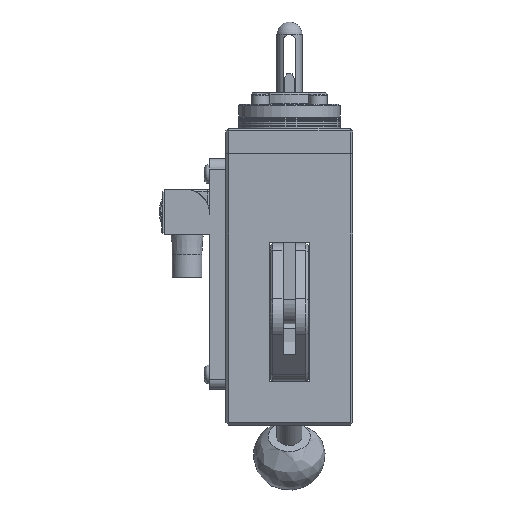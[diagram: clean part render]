
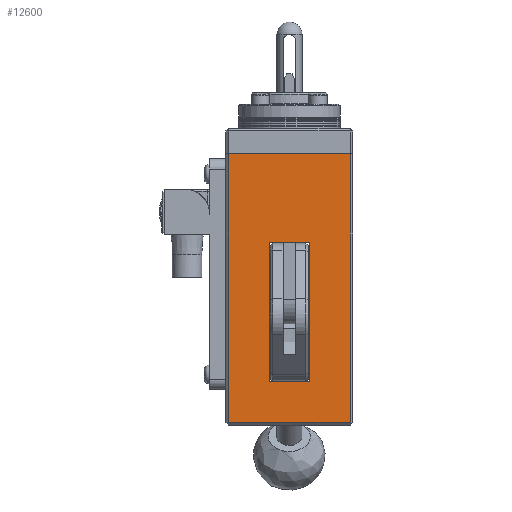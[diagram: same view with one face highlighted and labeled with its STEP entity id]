
A CAD part, left-side view. The second image highlights one B-rep face of the part: STEP entity #12600.
In plain terms, the highlighted planar face has unit normal (-1, 0, 0).
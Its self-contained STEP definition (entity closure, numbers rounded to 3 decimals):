
#352=FACE_BOUND('',#1956,.T.);
#735=PLANE('',#13706);
#1165=FACE_OUTER_BOUND('',#1955,.T.);
#1955=EDGE_LOOP('',(#9177,#9178,#9179,#9180));
#1956=EDGE_LOOP('',(#9181,#9182,#9183,#9184));
#2764=LINE('',#19378,#3690);
#2771=LINE('',#19408,#3697);
#2797=LINE('',#19487,#3723);
#2800=LINE('',#19493,#3726);
#2842=LINE('',#19707,#3768);
#2850=LINE('',#19729,#3776);
#2862=LINE('',#19769,#3788);
#2863=LINE('',#19771,#3789);
#3690=VECTOR('',#15301,10.);
#3697=VECTOR('',#15330,10.);
#3723=VECTOR('',#15406,10.);
#3726=VECTOR('',#15411,10.);
#3768=VECTOR('',#15643,10.);
#3776=VECTOR('',#15665,10.);
#3788=VECTOR('',#15709,10.);
#3789=VECTOR('',#15712,10.);
#5476=VERTEX_POINT('',#19375);
#5477=VERTEX_POINT('',#19377);
#5488=VERTEX_POINT('',#19405);
#5489=VERTEX_POINT('',#19407);
#5517=VERTEX_POINT('',#19485);
#5519=VERTEX_POINT('',#19491);
#5596=VERTEX_POINT('',#19706);
#5603=VERTEX_POINT('',#19728);
#6796=EDGE_CURVE('',#5477,#5476,#2764,.T.);
#6810=EDGE_CURVE('',#5488,#5489,#2771,.T.);
#6847=EDGE_CURVE('',#5517,#5488,#2797,.T.);
#6850=EDGE_CURVE('',#5519,#5517,#2800,.T.);
#6953=EDGE_CURVE('',#5596,#5477,#2842,.T.);
#6963=EDGE_CURVE('',#5603,#5596,#2850,.T.);
#6981=EDGE_CURVE('',#5476,#5603,#2862,.T.);
#6982=EDGE_CURVE('',#5489,#5519,#2863,.T.);
#9177=ORIENTED_EDGE('',*,*,#6847,.F.);
#9178=ORIENTED_EDGE('',*,*,#6850,.F.);
#9179=ORIENTED_EDGE('',*,*,#6982,.F.);
#9180=ORIENTED_EDGE('',*,*,#6810,.F.);
#9181=ORIENTED_EDGE('',*,*,#6953,.T.);
#9182=ORIENTED_EDGE('',*,*,#6796,.T.);
#9183=ORIENTED_EDGE('',*,*,#6981,.T.);
#9184=ORIENTED_EDGE('',*,*,#6963,.T.);
#12600=ADVANCED_FACE('',(#1165,#352),#735,.T.);
#13706=AXIS2_PLACEMENT_3D('',#19770,#15710,#15711);
#15301=DIRECTION('',(0.,0.,1.));
#15330=DIRECTION('',(0.,0.,1.));
#15406=DIRECTION('',(0.,1.,0.));
#15411=DIRECTION('',(0.,0.,-1.));
#15643=DIRECTION('',(0.,1.,0.));
#15665=DIRECTION('',(0.,0.,-1.));
#15709=DIRECTION('',(0.,-1.,0.));
#15710=DIRECTION('center_axis',(-1.,0.,0.));
#15711=DIRECTION('ref_axis',(0.,-1.,0.));
#15712=DIRECTION('',(0.,-1.,0.));
#19375=CARTESIAN_POINT('',(-36.509,7.434,18.5));
#19377=CARTESIAN_POINT('',(-36.509,7.434,-36.5));
#19378=CARTESIAN_POINT('',(-36.509,7.434,-45.));
#19405=CARTESIAN_POINT('',(-36.509,23.434,-52.5));
#19407=CARTESIAN_POINT('',(-36.509,23.434,53.5));
#19408=CARTESIAN_POINT('',(-36.509,23.434,-53.5));
#19485=CARTESIAN_POINT('',(-36.509,-24.566,-52.5));
#19487=CARTESIAN_POINT('',(-36.509,-6.816,-52.5));
#19491=CARTESIAN_POINT('',(-36.509,-24.566,53.5));
#19493=CARTESIAN_POINT('',(-36.509,-24.566,-53.5));
#19706=CARTESIAN_POINT('',(-36.509,-8.566,-36.5));
#19707=CARTESIAN_POINT('',(-36.509,-0.566,-36.5));
#19728=CARTESIAN_POINT('',(-36.509,-8.566,18.5));
#19729=CARTESIAN_POINT('',(-36.509,-8.566,-45.));
#19769=CARTESIAN_POINT('',(-36.509,-4.566,18.5));
#19770=CARTESIAN_POINT('Origin',(-36.509,-0.566,-53.5));
#19771=CARTESIAN_POINT('',(-36.509,-0.566,53.5));
